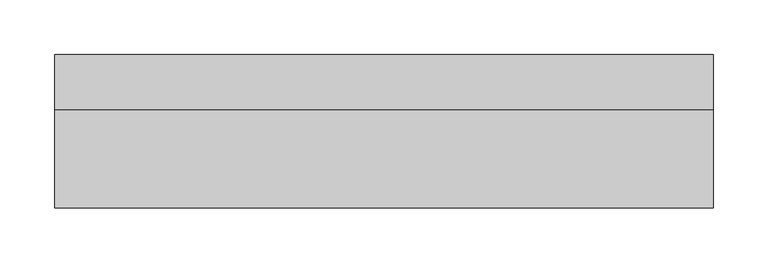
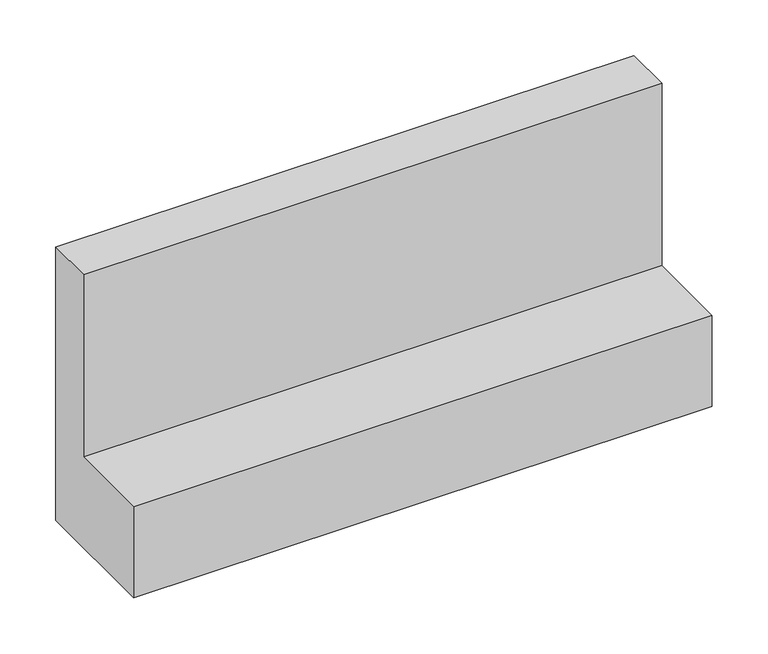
"""IFC4 building model written with IfcOpenShell, lengths in millimetres: proxy geometry, Módulo L de Concreto Celular - Celucon : MLCC 14x30x60cm (L x A x C)."""

from ifc_helpers import new_model, si_unit, frame, origin, place, context, project, spatial, polyline, outline, extrude, source, transform, mapped, element, save


def generic_models_95f945a7(model_context):
    return source(origin(), model_context, "Body", "SweptSolid", [
        extrude(outline(polyline([(70.0, 0.0), (-70.0, 0.0), (-70.0, 100.0), (20.0, 100.0), (20.0, 300.0), (70.0, 300.0), (70.0, 0.0)])), frame((-300.0, 0.0, 0.0), z_axis=(1.0, 0.0, 0.0), x_axis=(0.0, 1.0, 0.0)), (0.0, 0.0, 1.0), 600.0),
    ])


if __name__ == "__main__":
    model = new_model("IFC4")
    model_context = context("Model", 3, world=origin())
    ifc_project = project(units=[si_unit("LENGTHUNIT", "METRE", prefix="MILLI")], contexts=[model_context])
    site = spatial("IfcSite", under=ifc_project)
    building = spatial("IfcBuilding", under=site)
    placement = place(None, origin())
    generic_models_shape = generic_models_95f945a7(model_context)
    element("IfcBuildingElementProxy", 1, Name="Módulo L de Concreto Celular - Celucon : MLCC 14x30x60cm (L x A x C)", ObjectType="Módulo L de Concreto Celular - Celucon : MLCC 14x30x60cm (L x A x C)", at=placement, inside=building, context=model_context, shape_type="MappedRepresentation", body=[
        mapped(generic_models_shape, transform((0.0, 0.0, 0.0), x_axis=(1.0, 0.0, 0.0), y_axis=(0.0, 1.0, 0.0), z_axis=(0.0, 0.0, 1.0))),
    ])
    save(model, "model.ifc")
